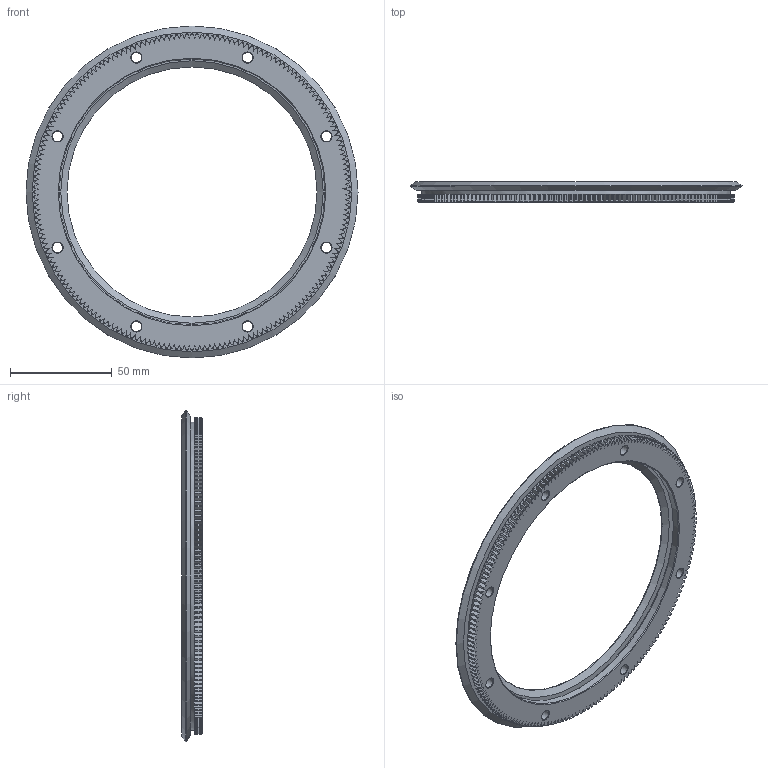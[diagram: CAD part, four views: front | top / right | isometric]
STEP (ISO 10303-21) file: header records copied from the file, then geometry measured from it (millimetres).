
FILE_DESCRIPTION( ( 'STEP AP203' ), '1' );
FILE_NAME( 'p:/temp/worker_71/temp/exporttempdir_3676_164_cloUY/format_0/R20 143 R360 P.stp', '2021-08-30T04:10:50', ( 'License CC BY-ND 4.0' ), ( 'CADENAS' ), ' ', 'PARTsolutions', ' ' );
FILE_SCHEMA( ( 'CONFIG_CONTROL_DESIGN' ) );
Length unit declared in the file: millimetre
Products named in the file (1): _R20 143 R360 P
Bounding box: 163.1 x 10 x 163.1 mm (x, y, z)
Volume: 57385.1 mm3; surface area: 30883.2 mm2
Topology: 1 solids, 1 shells, 1199 faces, 3161 edges, 1975 vertices
Faces by surface type: plane 781, cylinder 211, cone 205, torus 2
Full cylindrical faces by diameter (mm): 5 x8, 8 x8, 130.6 x1, 135 x1, 151.4 x1
Entity records: 37002 total; most frequent: CARTESIAN_POINT 7453, ORIENTED_EDGE 6252, DIRECTION 6156, EDGE_CURVE 3126, AXIS2_PLACEMENT_3D 2214, VERTEX_POINT 1975, LINE 1728, VECTOR 1728
